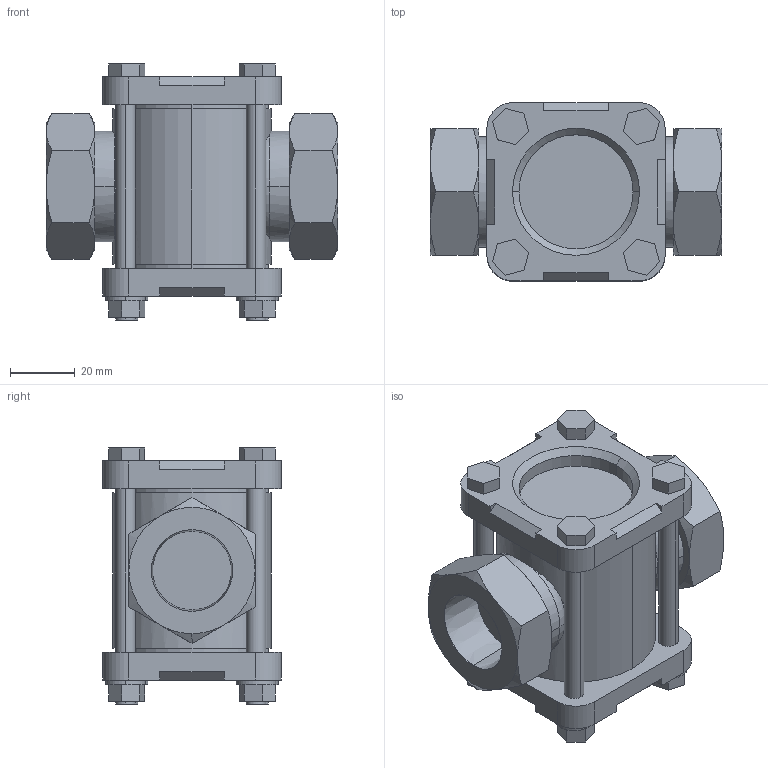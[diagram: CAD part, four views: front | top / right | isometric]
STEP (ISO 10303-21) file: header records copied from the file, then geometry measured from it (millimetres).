
FILE_DESCRIPTION (( 'STEP AP203' ), '1' );
FILE_NAME ('SF-1S 20A.STEP', '2024-09-06T01:10:13', ( '' ), ( '' ), 'SwSTEP 2.0', 'SolidWorks 2024', '' );
FILE_SCHEMA (( 'CONFIG_CONTROL_DESIGN' ));
Length unit declared in the file: millimetre
Products named in the file (1): SF-1S 20A
Bounding box: 90 x 55 x 79 mm (x, y, z)
Volume: 180138 mm3; surface area: 36271.6 mm2
Topology: 1 solids, 1 shells, 224 faces, 546 edges, 348 vertices
Faces by surface type: plane 126, cylinder 56, cone 36, torus 6
Entity records: 7043 total; most frequent: CARTESIAN_POINT 1679, ORIENTED_EDGE 1092, DIRECTION 1086, EDGE_CURVE 546, AXIS2_PLACEMENT_3D 381, VERTEX_POINT 348, VECTOR 324, LINE 324
